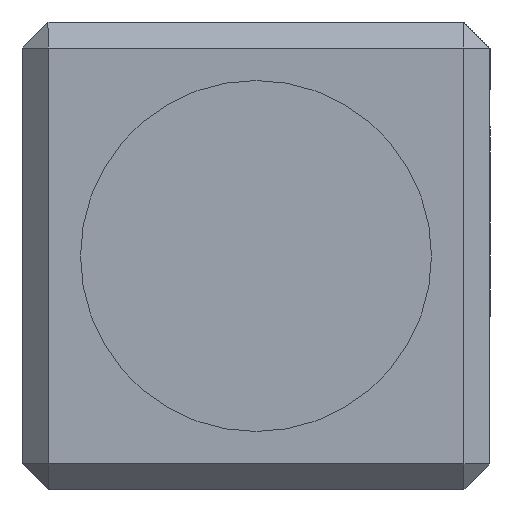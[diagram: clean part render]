
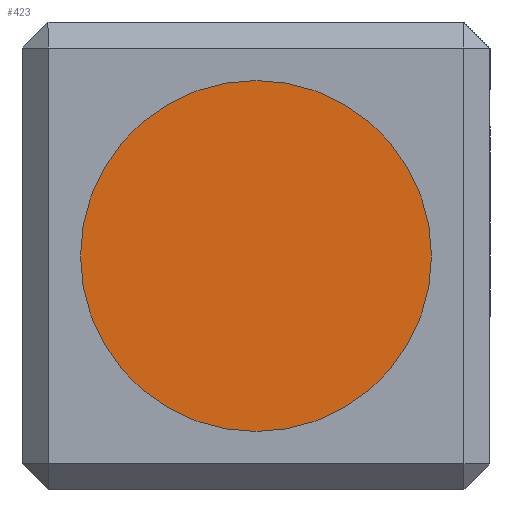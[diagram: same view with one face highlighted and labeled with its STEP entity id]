
A CAD part, left-side view. The second image highlights one B-rep face of the part: STEP entity #423.
In plain terms, the highlighted planar face has unit normal (-1, 0, 0).
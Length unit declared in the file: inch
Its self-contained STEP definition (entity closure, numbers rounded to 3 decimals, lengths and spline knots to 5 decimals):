
#25=CIRCLE('',#457,0.0675);
#53=FACE_OUTER_BOUND('',#86,.T.);
#86=EDGE_LOOP('',(#366));
#212=VERTEX_POINT('',#682);
#264=EDGE_CURVE('',#212,#212,#25,.T.);
#366=ORIENTED_EDGE('',*,*,#264,.F.);
#395=PLANE('',#458);
#423=ADVANCED_FACE('',(#53),#395,.T.);
#457=AXIS2_PLACEMENT_3D('',#683,#570,#571);
#458=AXIS2_PLACEMENT_3D('',#684,#572,#573);
#570=DIRECTION('center_axis',(1.,0.,0.));
#571=DIRECTION('ref_axis',(0.,0.,1.));
#572=DIRECTION('center_axis',(-1.,0.,0.));
#573=DIRECTION('ref_axis',(0.,0.,1.));
#682=CARTESIAN_POINT('',(1.1,0.,-0.0675));
#683=CARTESIAN_POINT('Origin',(1.1,0.,0.));
#684=CARTESIAN_POINT('Origin',(1.1,0.,0.));
